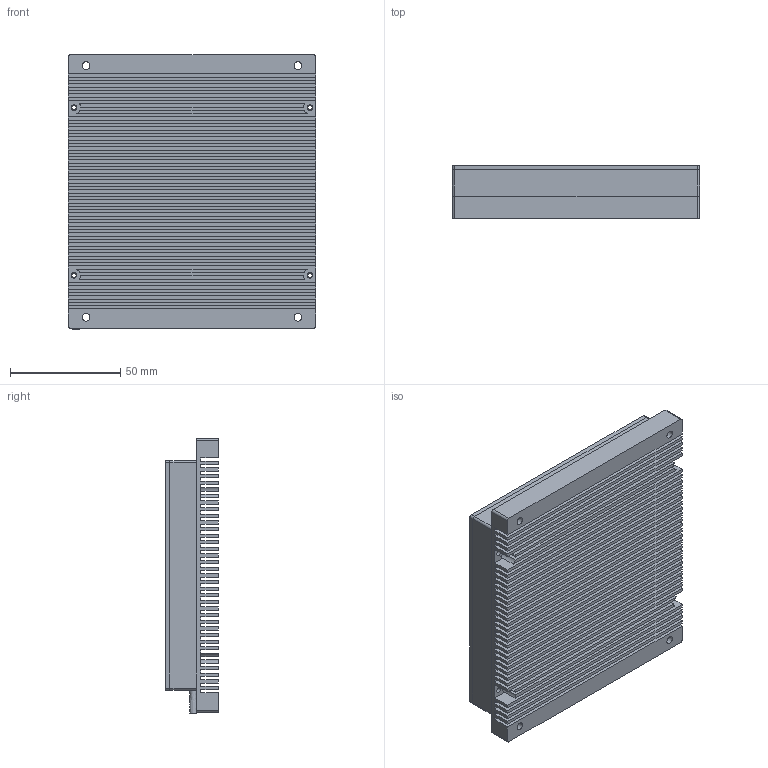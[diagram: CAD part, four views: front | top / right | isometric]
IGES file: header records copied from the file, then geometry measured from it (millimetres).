
Global section: file name: 153-00762_LF 100 xD-24-KFL5; native system: Autodesk Inventor 2018; preprocessor: unknown; author: ss; date: 20180725.103953; units: millimetre
Bounding box: 112 x 24 x 124.5 mm (x, y, z)
Volume: 131253.3 mm3; surface area: 128336.6 mm2
Topology: 2 solids, 2 shells, 247 faces, 716 edges, 488 vertices
Faces by surface type: bspline 247
